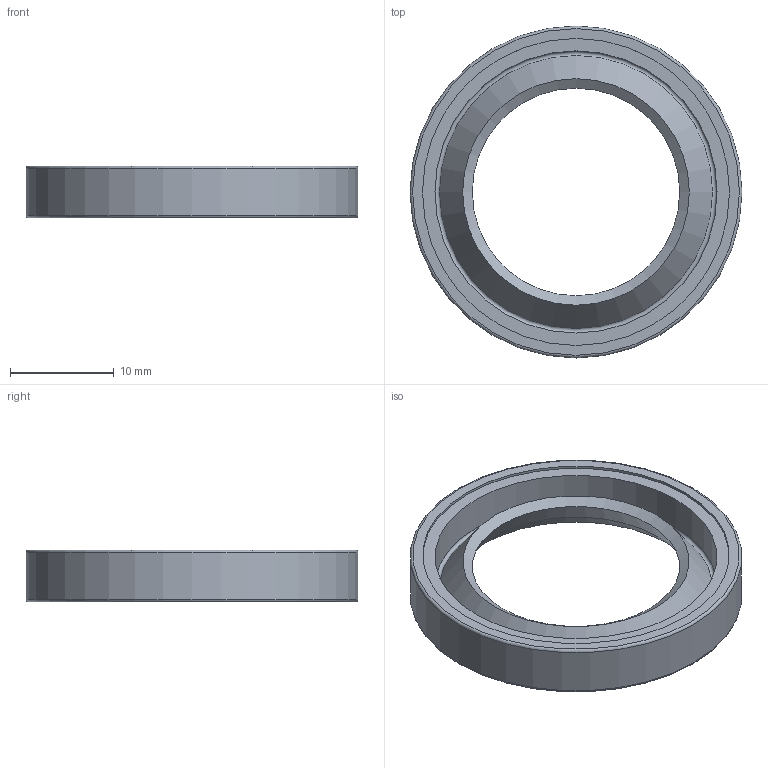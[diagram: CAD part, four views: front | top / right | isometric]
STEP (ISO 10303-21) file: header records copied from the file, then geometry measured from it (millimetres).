
FILE_DESCRIPTION(/* description */ ('오일 실 - 비스프링, 조립 GA'),/* implementation_level */ '2;1');
FILE_NAME(/* name */ '',/* time_stamp */ '2024-04-08T11:28:31+09:00',/* author */ ('jhkim'),/* organization */ (''),/* preprocessor_version */ 'ST-DEVELOPER v20',/* originating_system */ 'Autodesk Inventor 2025',/* authorisation */ '');
FILE_SCHEMA (('AUTOMOTIVE_DESIGN { 1 0 10303 214 3 1 1 }'));
Length unit declared in the file: millimetre
Products named in the file (1): 오일 실 20 32 5
Bounding box: 32 x 32 x 5 mm (x, y, z)
Volume: 1513.3 mm3; surface area: 2058.6 mm2
Topology: 1 solids, 1 shells, 15 faces, 27 edges, 15 vertices
Faces by surface type: cone 5, torus 4, cylinder 3, plane 3
Full cylindrical faces by diameter (mm): 27.2 x1, 29.6 x1, 32 x1
Entity records: 415 total; most frequent: DIRECTION 78, CARTESIAN_POINT 58, ORIENTED_EDGE 54, AXIS2_PLACEMENT_3D 35, EDGE_CURVE 27, CIRCLE 19, EDGE_LOOP 18, FACE_OUTER_BOUND 15
